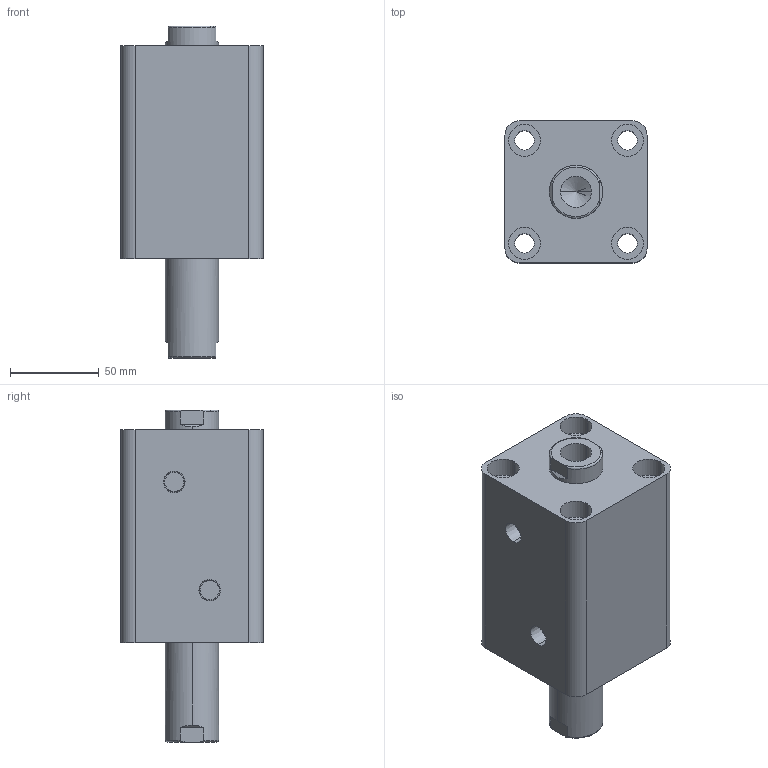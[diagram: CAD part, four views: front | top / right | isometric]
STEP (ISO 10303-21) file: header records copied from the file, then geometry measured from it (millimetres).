
FILE_DESCRIPTION (( 'STEP AP203' ), '1' );
FILE_NAME ('HTB-SW50-45N.STEP', '2019-10-07T09:20:19', ( '微软用户' ), ( '微软中国' ), 'SwSTEP 2.0', 'SolidWorks 2012', '' );
FILE_SCHEMA (( 'CONFIG_CONTROL_DESIGN' ));
Length unit declared in the file: millimetre
Products named in the file (3): HTB-SW50-45N; HTB-SW50-45N活塞杆; HTB-SW50-45掛极
Assembly tree (2 placements, depth 2):
  HTB-SW50-45N
    HTB-SW50-45掛极
    HTB-SW50-45N活塞杆
Bounding box: 80 x 80 x 187 mm (x, y, z)
Volume: 677192.7 mm3; surface area: 110028.1 mm2
Topology: 2 solids, 2 shells, 100 faces, 228 edges, 146 vertices
Faces by surface type: cylinder 48, plane 32, torus 12, cone 8
Entity records: 3237 total; most frequent: CARTESIAN_POINT 595, DIRECTION 542, ORIENTED_EDGE 448, AXIS2_PLACEMENT_3D 229, EDGE_CURVE 224, VERTEX_POINT 146, EDGE_LOOP 128, CIRCLE 124
